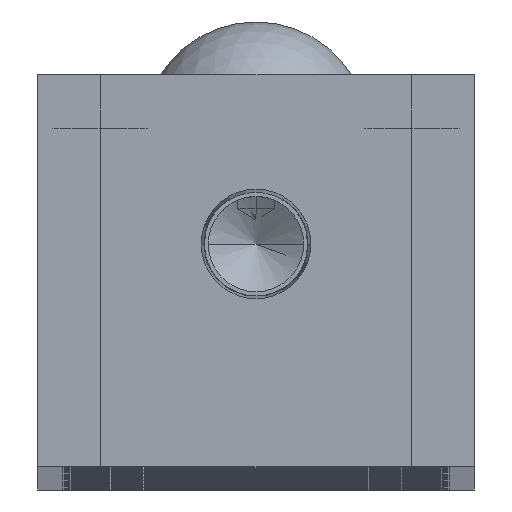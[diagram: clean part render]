
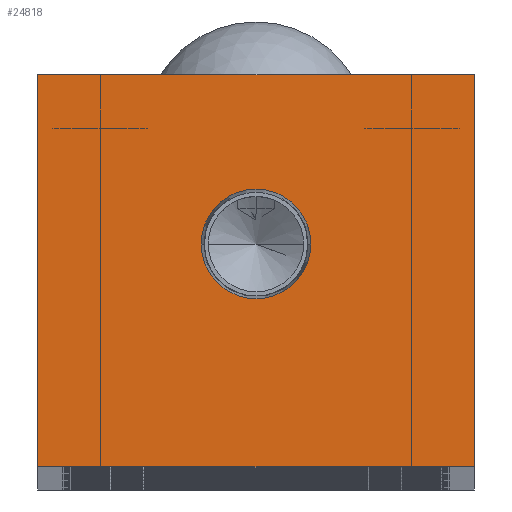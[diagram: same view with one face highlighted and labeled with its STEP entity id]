
A CAD part, top view. The second image highlights one B-rep face of the part: STEP entity #24818.
In plain terms, the highlighted planar face has unit normal (0, 0, 1).
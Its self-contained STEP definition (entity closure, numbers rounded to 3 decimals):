
#82 = ORIENTED_EDGE ( 'NONE', *, *, #34703, .F. ) ;
#1453 = VERTEX_POINT ( 'NONE', #29877 ) ;
#1931 = DIRECTION ( 'NONE',  ( 0., 0., 1. ) ) ;
#1960 = VERTEX_POINT ( 'NONE', #29710 ) ;
#2115 = EDGE_LOOP ( 'NONE', ( #82, #12452 ) ) ;
#2653 = LINE ( 'NONE', #27032, #9617 ) ;
#3790 = CARTESIAN_POINT ( 'NONE',  ( -24.5, 44., 0. ) ) ;
#5979 = FACE_BOUND ( 'NONE', #2115, .T. ) ;
#6028 = DIRECTION ( 'NONE',  ( 0., -1., 0. ) ) ;
#6880 = LINE ( 'NONE', #14576, #12949 ) ;
#7259 = VERTEX_POINT ( 'NONE', #31851 ) ;
#8618 = VERTEX_POINT ( 'NONE', #26311 ) ;
#9617 = VECTOR ( 'NONE', #6028, 1000. ) ;
#10106 = DIRECTION ( 'NONE',  ( -1., 0., 0. ) ) ;
#10372 = VERTEX_POINT ( 'NONE', #27231 ) ;
#11102 = FACE_OUTER_BOUND ( 'NONE', #23312, .T. ) ;
#11906 = VECTOR ( 'NONE', #17060, 1000. ) ;
#12143 = AXIS2_PLACEMENT_3D ( 'NONE', #19756, #1931, #22745 ) ;
#12452 = ORIENTED_EDGE ( 'NONE', *, *, #22698, .F. ) ;
#12651 = DIRECTION ( 'NONE',  ( 0., 0., 1. ) ) ;
#12699 = ORIENTED_EDGE ( 'NONE', *, *, #13360, .T. ) ;
#12836 = CARTESIAN_POINT ( 'NONE',  ( -6.154, 25., 0. ) ) ;
#12908 = EDGE_CURVE ( 'NONE', #1453, #8618, #2653, .T. ) ;
#12949 = VECTOR ( 'NONE', #20712, 1000. ) ;
#13305 = AXIS2_PLACEMENT_3D ( 'NONE', #30491, #12651, #33537 ) ;
#13360 = EDGE_CURVE ( 'NONE', #10372, #1453, #18473, .T. ) ;
#14576 = CARTESIAN_POINT ( 'NONE',  ( 24.5, 0., 0. ) ) ;
#15990 = CARTESIAN_POINT ( 'NONE',  ( 0., 0., 0. ) ) ;
#16678 = ORIENTED_EDGE ( 'NONE', *, *, #26612, .T. ) ;
#16696 = VERTEX_POINT ( 'NONE', #12836 ) ;
#17060 = DIRECTION ( 'NONE',  ( 0., 1., 0. ) ) ;
#17527 = VECTOR ( 'NONE', #27633, 1000. ) ;
#17572 = ORIENTED_EDGE ( 'NONE', *, *, #19861, .T. ) ;
#18473 = LINE ( 'NONE', #3790, #17527 ) ;
#19128 = ORIENTED_EDGE ( 'NONE', *, *, #12908, .T. ) ;
#19308 = CIRCLE ( 'NONE', #13305, 6.154 ) ;
#19756 = CARTESIAN_POINT ( 'NONE',  ( 0., 25., 0. ) ) ;
#19861 = EDGE_CURVE ( 'NONE', #8618, #7259, #6880, .T. ) ;
#20712 = DIRECTION ( 'NONE',  ( 1., 0., 0. ) ) ;
#21699 = LINE ( 'NONE', #37880, #11906 ) ;
#22698 = EDGE_CURVE ( 'NONE', #16696, #1960, #19308, .T. ) ;
#22745 = DIRECTION ( 'NONE',  ( 1., 0., 0. ) ) ;
#22751 = CIRCLE ( 'NONE', #12143, 6.154 ) ;
#23312 = EDGE_LOOP ( 'NONE', ( #19128, #17572, #16678, #12699 ) ) ;
#24818 = ADVANCED_FACE ( 'NONE', ( #5979, #11102 ), #36849, .F. ) ;
#26311 = CARTESIAN_POINT ( 'NONE',  ( -24.5, 0., 0. ) ) ;
#26612 = EDGE_CURVE ( 'NONE', #7259, #10372, #21699, .T. ) ;
#27032 = CARTESIAN_POINT ( 'NONE',  ( -24.5, 0., 0. ) ) ;
#27231 = CARTESIAN_POINT ( 'NONE',  ( 24.5, 44., 0. ) ) ;
#27633 = DIRECTION ( 'NONE',  ( -1., 0., 0. ) ) ;
#27975 = DIRECTION ( 'NONE',  ( 0., 0., -1. ) ) ;
#29710 = CARTESIAN_POINT ( 'NONE',  ( 6.154, 25., 0. ) ) ;
#29877 = CARTESIAN_POINT ( 'NONE',  ( -24.5, 44., 0. ) ) ;
#30491 = CARTESIAN_POINT ( 'NONE',  ( 0., 25., 0. ) ) ;
#30914 = AXIS2_PLACEMENT_3D ( 'NONE', #15990, #27975, #10106 ) ;
#31851 = CARTESIAN_POINT ( 'NONE',  ( 24.5, 0., 0. ) ) ;
#33537 = DIRECTION ( 'NONE',  ( 1., 0., 0. ) ) ;
#34703 = EDGE_CURVE ( 'NONE', #1960, #16696, #22751, .T. ) ;
#36849 = PLANE ( 'NONE',  #30914 ) ;
#37880 = CARTESIAN_POINT ( 'NONE',  ( 24.5, 44., 0. ) ) ;
